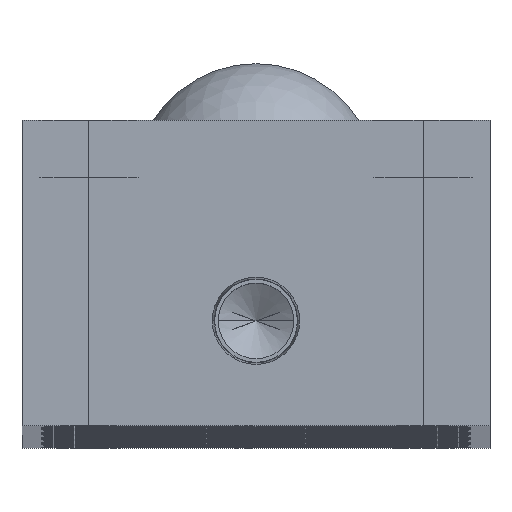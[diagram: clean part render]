
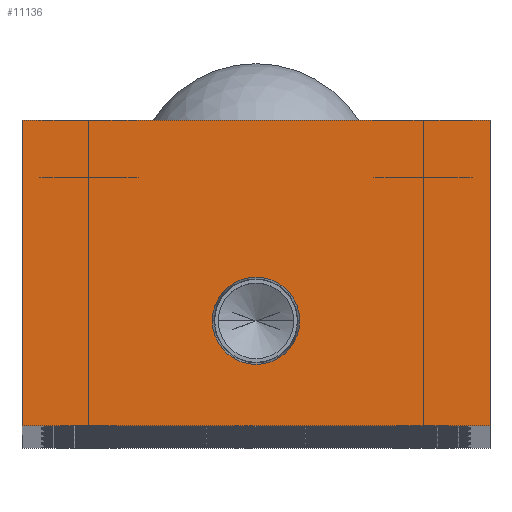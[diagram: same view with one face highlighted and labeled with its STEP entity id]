
A CAD part, top view. The second image highlights one B-rep face of the part: STEP entity #11136.
In plain terms, the highlighted planar face has unit normal (0, 0, 1).
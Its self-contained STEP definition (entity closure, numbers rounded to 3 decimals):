
#1240 = LINE ( 'NONE', #6130, #13655 ) ;
#1275 = CARTESIAN_POINT ( 'NONE',  ( -24.5, 32., 0. ) ) ;
#2159 = LINE ( 'NONE', #4561, #27751 ) ;
#2183 = VERTEX_POINT ( 'NONE', #1275 ) ;
#2248 = VERTEX_POINT ( 'NONE', #18850 ) ;
#2792 = CARTESIAN_POINT ( 'NONE',  ( 0., 0., 0. ) ) ;
#2833 = EDGE_LOOP ( 'NONE', ( #24685, #31778, #23739, #7237 ) ) ;
#3632 = DIRECTION ( 'NONE',  ( 0., 0., 1. ) ) ;
#4134 = CARTESIAN_POINT ( 'NONE',  ( 4.574, 11., 0. ) ) ;
#4178 = FACE_OUTER_BOUND ( 'NONE', #2833, .T. ) ;
#4561 = CARTESIAN_POINT ( 'NONE',  ( 24.5, 0., 0. ) ) ;
#6130 = CARTESIAN_POINT ( 'NONE',  ( -24.5, 0., 0. ) ) ;
#6790 = VERTEX_POINT ( 'NONE', #23551 ) ;
#7237 = ORIENTED_EDGE ( 'NONE', *, *, #29968, .T. ) ;
#7682 = CARTESIAN_POINT ( 'NONE',  ( 0., 11., 0. ) ) ;
#8314 = ORIENTED_EDGE ( 'NONE', *, *, #17224, .F. ) ;
#8328 = VECTOR ( 'NONE', #18373, 1000. ) ;
#9478 = VERTEX_POINT ( 'NONE', #11063 ) ;
#10165 = DIRECTION ( 'NONE',  ( 1., 0., 0. ) ) ;
#10269 = DIRECTION ( 'NONE',  ( -1., 0., 0. ) ) ;
#11063 = CARTESIAN_POINT ( 'NONE',  ( 24.5, 0., 0. ) ) ;
#11136 = ADVANCED_FACE ( 'NONE', ( #23961, #4178 ), #17678, .F. ) ;
#11869 = CARTESIAN_POINT ( 'NONE',  ( 24.5, 32., 0. ) ) ;
#12366 = VERTEX_POINT ( 'NONE', #4134 ) ;
#13655 = VECTOR ( 'NONE', #23458, 1000. ) ;
#13669 = VECTOR ( 'NONE', #24258, 1000. ) ;
#14968 = EDGE_CURVE ( 'NONE', #17520, #9478, #2159, .T. ) ;
#14970 = CARTESIAN_POINT ( 'NONE',  ( -24.5, 0., 0. ) ) ;
#15029 = AXIS2_PLACEMENT_3D ( 'NONE', #7682, #25037, #10165 ) ;
#17193 = CIRCLE ( 'NONE', #15029, 4.574 ) ;
#17224 = EDGE_CURVE ( 'NONE', #12366, #6790, #30809, .T. ) ;
#17520 = VERTEX_POINT ( 'NONE', #14970 ) ;
#17678 = PLANE ( 'NONE',  #28583 ) ;
#18373 = DIRECTION ( 'NONE',  ( -1., 0., 0. ) ) ;
#18504 = CARTESIAN_POINT ( 'NONE',  ( 0., 11., 0. ) ) ;
#18850 = CARTESIAN_POINT ( 'NONE',  ( 24.5, 32., 0. ) ) ;
#19141 = ORIENTED_EDGE ( 'NONE', *, *, #31942, .F. ) ;
#19316 = DIRECTION ( 'NONE',  ( 1., 0., 0. ) ) ;
#20973 = DIRECTION ( 'NONE',  ( 1., 0., 0. ) ) ;
#23073 = LINE ( 'NONE', #28207, #8328 ) ;
#23117 = EDGE_LOOP ( 'NONE', ( #8314, #19141 ) ) ;
#23458 = DIRECTION ( 'NONE',  ( 0., -1., 0. ) ) ;
#23551 = CARTESIAN_POINT ( 'NONE',  ( -4.574, 11., 0. ) ) ;
#23739 = ORIENTED_EDGE ( 'NONE', *, *, #23929, .T. ) ;
#23929 = EDGE_CURVE ( 'NONE', #9478, #2248, #26838, .T. ) ;
#23961 = FACE_BOUND ( 'NONE', #23117, .T. ) ;
#24258 = DIRECTION ( 'NONE',  ( 0., 1., 0. ) ) ;
#24685 = ORIENTED_EDGE ( 'NONE', *, *, #24829, .T. ) ;
#24829 = EDGE_CURVE ( 'NONE', #2183, #17520, #1240, .T. ) ;
#25014 = AXIS2_PLACEMENT_3D ( 'NONE', #18504, #3632, #20973 ) ;
#25037 = DIRECTION ( 'NONE',  ( 0., 0., 1. ) ) ;
#25137 = DIRECTION ( 'NONE',  ( 0., 0., -1. ) ) ;
#26838 = LINE ( 'NONE', #11869, #13669 ) ;
#27751 = VECTOR ( 'NONE', #19316, 1000. ) ;
#28207 = CARTESIAN_POINT ( 'NONE',  ( -24.5, 32., 0. ) ) ;
#28583 = AXIS2_PLACEMENT_3D ( 'NONE', #2792, #25137, #10269 ) ;
#29968 = EDGE_CURVE ( 'NONE', #2248, #2183, #23073, .T. ) ;
#30809 = CIRCLE ( 'NONE', #25014, 4.574 ) ;
#31778 = ORIENTED_EDGE ( 'NONE', *, *, #14968, .T. ) ;
#31942 = EDGE_CURVE ( 'NONE', #6790, #12366, #17193, .T. ) ;
